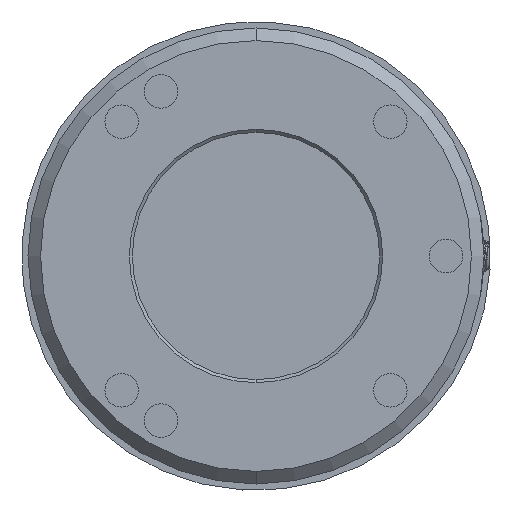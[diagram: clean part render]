
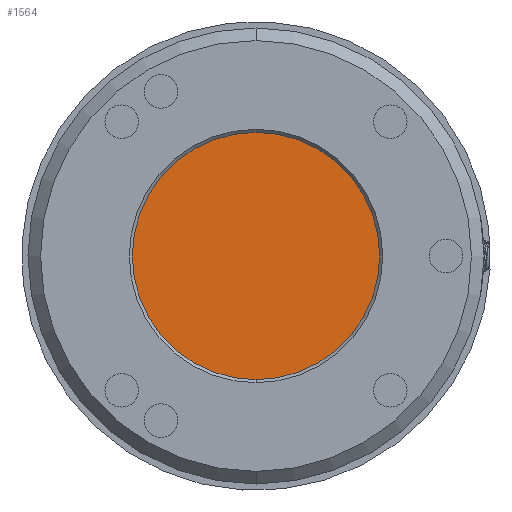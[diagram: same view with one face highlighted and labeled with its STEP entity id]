
A CAD part, front view. The second image highlights one B-rep face of the part: STEP entity #1564.
In plain terms, the highlighted planar face has unit normal (0, -1, 0).
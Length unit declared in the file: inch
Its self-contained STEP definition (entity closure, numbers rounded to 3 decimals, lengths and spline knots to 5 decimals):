
#269 = FACE_OUTER_BOUND ( 'NONE', #2151, .T. ) ;
#305 = VERTEX_POINT ( 'NONE', #1070 ) ;
#540 = AXIS2_PLACEMENT_3D ( 'NONE', #2976, #2990, #1636 ) ;
#666 = CARTESIAN_POINT ( 'NONE',  ( 0., -0.245, 0.61 ) ) ;
#819 = AXIS2_PLACEMENT_3D ( 'NONE', #2886, #2200, #2640 ) ;
#822 = PLANE ( 'NONE',  #819 ) ;
#846 = CIRCLE ( 'NONE', #1947, 0.61 ) ;
#1070 = CARTESIAN_POINT ( 'NONE',  ( 0., -0.245, -0.61 ) ) ;
#1356 = DIRECTION ( 'NONE',  ( 0., 1., 0. ) ) ;
#1387 = EDGE_CURVE ( 'NONE', #2639, #305, #846, .T. ) ;
#1564 = ADVANCED_FACE ( 'NONE', ( #269 ), #822, .F. ) ;
#1636 = DIRECTION ( 'NONE',  ( 0., 0., 1. ) ) ;
#1650 = ORIENTED_EDGE ( 'NONE', *, *, #1387, .F. ) ;
#1754 = ORIENTED_EDGE ( 'NONE', *, *, #2264, .F. ) ;
#1947 = AXIS2_PLACEMENT_3D ( 'NONE', #2962, #1356, #2023 ) ;
#2023 = DIRECTION ( 'NONE',  ( 0., 0., 1. ) ) ;
#2151 = EDGE_LOOP ( 'NONE', ( #1754, #1650 ) ) ;
#2200 = DIRECTION ( 'NONE',  ( 0., 1., 0. ) ) ;
#2238 = CIRCLE ( 'NONE', #540, 0.61 ) ;
#2264 = EDGE_CURVE ( 'NONE', #305, #2639, #2238, .T. ) ;
#2639 = VERTEX_POINT ( 'NONE', #666 ) ;
#2640 = DIRECTION ( 'NONE',  ( 0., 0., 1. ) ) ;
#2886 = CARTESIAN_POINT ( 'NONE',  ( 0., -0.245, 0. ) ) ;
#2962 = CARTESIAN_POINT ( 'NONE',  ( 0., -0.245, 0. ) ) ;
#2976 = CARTESIAN_POINT ( 'NONE',  ( 0., -0.245, 0. ) ) ;
#2990 = DIRECTION ( 'NONE',  ( 0., 1., 0. ) ) ;
